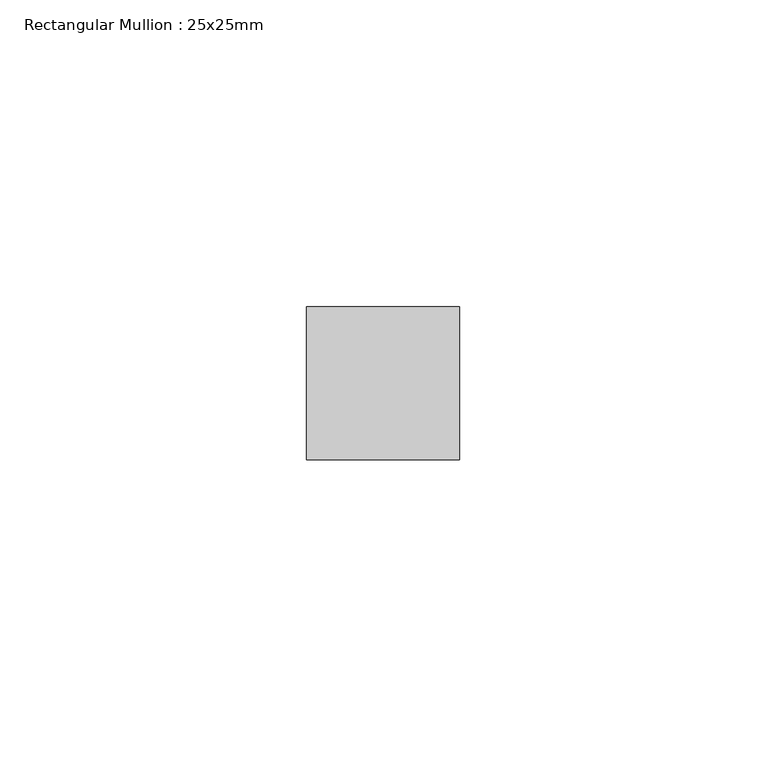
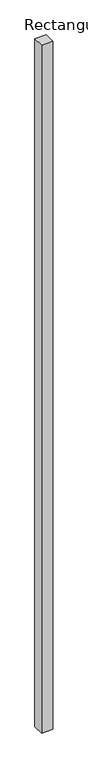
"""IFC4 building model written with IfcOpenShell, lengths in millimetres: member geometry, Rectangular Mullion : 25x25mm."""

from ifc_helpers import new_model, si_unit, frame, origin, place, context, project, spatial, polyline, outline, extrude, source, transform, mapped, element, save


def rectangular_mullion_25x25mm_730bac77(model_context):
    return source(origin(), model_context, "Body", "SweptSolid", [
        extrude(outline(polyline([(0.0, 0.5), (0.0, -24.5), (-25.0, -24.5), (-25.0, 0.5), (0.0, 0.5)])), frame((0.0, 0.0, -1590.625), z_axis=(0.0, 0.0, 1.0), x_axis=(1.0, 0.0, 0.0)), (0.0, 0.0, 1.0), 1590.625),
    ])


if __name__ == "__main__":
    model = new_model("IFC4")
    model_context = context("Model", 3, world=origin())
    ifc_project = project(units=[si_unit("LENGTHUNIT", "METRE", prefix="MILLI")], contexts=[model_context])
    site = spatial("IfcSite", under=ifc_project)
    building = spatial("IfcBuilding", under=site)
    placement = place(None, origin())
    rectangular_mullion_25x25mm_shape = rectangular_mullion_25x25mm_730bac77(model_context)
    element("IfcMember", 1, ObjectType="Rectangular Mullion : 25x25mm", at=placement, inside=building, context=model_context, shape_type="MappedRepresentation", body=[
        mapped(rectangular_mullion_25x25mm_shape, transform((0.0, 0.0, 0.0), x_axis=(1.0, 0.0, 0.0), y_axis=(0.0, 1.0, 0.0), z_axis=(0.0, 0.0, 1.0))),
    ])
    save(model, "model.ifc")
